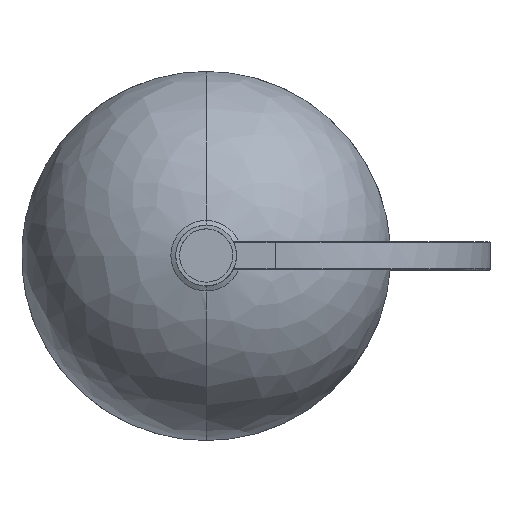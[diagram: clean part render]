
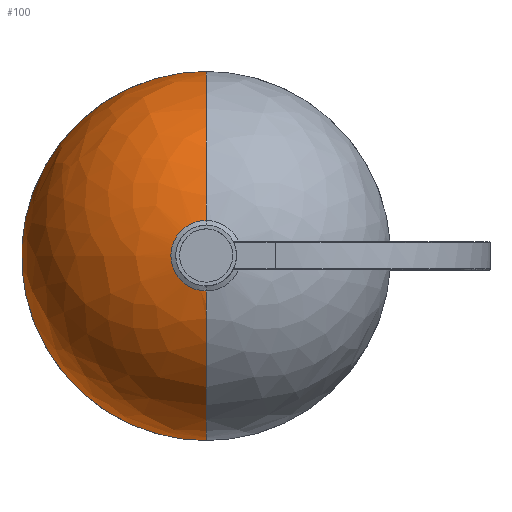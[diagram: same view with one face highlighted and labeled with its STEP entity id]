
A CAD part, top view. The second image highlights one B-rep face of the part: STEP entity #100.
In plain terms, the highlighted free-form (B-spline) face has degree [2, 2] with [9, 9] control points.
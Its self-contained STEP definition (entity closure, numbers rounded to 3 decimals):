
#100=ADVANCED_FACE('',(#325),#3201,.T.);
#325=FACE_OUTER_BOUND('',#553,.T.);
#553=EDGE_LOOP('',(#857,#858,#859,#860));
#857=ORIENTED_EDGE('',*,*,#1826,.T.);
#858=ORIENTED_EDGE('',*,*,#1828,.T.);
#859=ORIENTED_EDGE('',*,*,#1847,.T.);
#860=ORIENTED_EDGE('',*,*,#1829,.T.);
#1826=EDGE_CURVE('',#2836,#2835,#2329,.T.);
#1828=EDGE_CURVE('',#2835,#2837,#2331,.T.);
#1829=EDGE_CURVE('',#2838,#2836,#2332,.T.);
#1847=EDGE_CURVE('',#2837,#2838,#2348,.T.);
#2329=(
BOUNDED_CURVE()
B_SPLINE_CURVE(2,(#5375,#5376,#5377,#5378,#5379),.UNSPECIFIED.,.F.,.F.)
B_SPLINE_CURVE_WITH_KNOTS((3,2,3),(0.,59.313,118.625),
 .UNSPECIFIED.)
CURVE()
GEOMETRIC_REPRESENTATION_ITEM()
RATIONAL_B_SPLINE_CURVE((1.,0.707,1.,0.707,1.))
REPRESENTATION_ITEM('')
);
#2331=(
BOUNDED_CURVE()
B_SPLINE_CURVE(2,(#5385,#5386,#5387),.UNSPECIFIED.,.F.,.F.)
B_SPLINE_CURVE_WITH_KNOTS((3,3),(0.,262.32),.UNSPECIFIED.)
CURVE()
GEOMETRIC_REPRESENTATION_ITEM()
RATIONAL_B_SPLINE_CURVE((1.,0.784,1.))
REPRESENTATION_ITEM('')
);
#2332=(
BOUNDED_CURVE()
B_SPLINE_CURVE(2,(#5388,#5389,#5390),.UNSPECIFIED.,.F.,.F.)
B_SPLINE_CURVE_WITH_KNOTS((3,3),(-262.32,0.),.UNSPECIFIED.)
CURVE()
GEOMETRIC_REPRESENTATION_ITEM()
RATIONAL_B_SPLINE_CURVE((1.,0.784,1.))
REPRESENTATION_ITEM('')
);
#2348=(
BOUNDED_CURVE()
B_SPLINE_CURVE(2,(#5458,#5459,#5460,#5461,#5462),.UNSPECIFIED.,.F.,.F.)
B_SPLINE_CURVE_WITH_KNOTS((3,2,3),(-620.312,-310.156,
0.),.UNSPECIFIED.)
CURVE()
GEOMETRIC_REPRESENTATION_ITEM()
RATIONAL_B_SPLINE_CURVE((1.,0.707,1.,0.707,1.))
REPRESENTATION_ITEM('')
);
#2835=VERTEX_POINT('',#5222);
#2836=VERTEX_POINT('',#5223);
#2837=VERTEX_POINT('',#5224);
#2838=VERTEX_POINT('',#5225);
#3201=(
BOUNDED_SURFACE()
B_SPLINE_SURFACE(2,2,((#4640,#4641,#4642,#4643,#4644,#4645,#4646,#4647,
#4648),(#4649,#4650,#4651,#4652,#4653,#4654,#4655,#4656,#4657),(#4658,#4659,
#4660,#4661,#4662,#4663,#4664,#4665,#4666),(#4667,#4668,#4669,#4670,#4671,
#4672,#4673,#4674,#4675),(#4676,#4677,#4678,#4679,#4680,#4681,#4682,#4683,
#4684),(#4685,#4686,#4687,#4688,#4689,#4690,#4691,#4692,#4693),(#4694,#4695,
#4696,#4697,#4698,#4699,#4700,#4701,#4702),(#4703,#4704,#4705,#4706,#4707,
#4708,#4709,#4710,#4711),(#4712,#4713,#4714,#4715,#4716,#4717,#4718,#4719,
#4720)),.UNSPECIFIED.,.T.,.F.,.F.)
B_SPLINE_SURFACE_WITH_KNOTS((3,2,2,2,3),(3,2,2,2,3),(0.,310.5,
620.999,931.499,1241.998),(0.,154.773,
309.546,464.319,619.093),.UNSPECIFIED.)
GEOMETRIC_REPRESENTATION_ITEM()
RATIONAL_B_SPLINE_SURFACE(((1.,0.923,1.,0.923,1.,
0.923,1.,0.923,1.),(0.707,0.653,
0.707,0.653,0.707,0.653,0.707,
0.653,0.707),(1.,0.923,1.,0.923,
1.,0.923,1.,0.923,1.),(0.707,0.653,
0.707,0.653,0.707,0.653,0.707,
0.653,0.707),(1.,0.923,1.,0.923,
1.,0.923,1.,0.923,1.),(0.707,0.653,
0.707,0.653,0.707,0.653,0.707,
0.653,0.707),(1.,0.923,1.,0.923,
1.,0.923,1.,0.923,1.),(0.707,0.653,
0.707,0.653,0.707,0.653,0.707,
0.653,0.707),(1.,0.923,1.,0.923,
1.,0.923,1.,0.923,1.)))
REPRESENTATION_ITEM('')
SURFACE()
);
#4640=CARTESIAN_POINT('',(116.2,0.,517.993));
#4641=CARTESIAN_POINT('',(197.873,0.,518.689));
#4642=CARTESIAN_POINT('',(255.871,0.,461.182));
#4643=CARTESIAN_POINT('',(313.87,0.,403.675));
#4644=CARTESIAN_POINT('',(313.87,0.,322.));
#4645=CARTESIAN_POINT('',(313.87,0.,240.325));
#4646=CARTESIAN_POINT('',(255.871,0.,182.818));
#4647=CARTESIAN_POINT('',(197.873,0.,125.311));
#4648=CARTESIAN_POINT('',(116.2,0.,126.007));
#4649=CARTESIAN_POINT('',(116.2,0.,517.993));
#4650=CARTESIAN_POINT('',(197.873,-81.673,518.689));
#4651=CARTESIAN_POINT('',(255.871,-139.671,461.182));
#4652=CARTESIAN_POINT('',(313.87,-197.67,403.675));
#4653=CARTESIAN_POINT('',(313.87,-197.67,322.));
#4654=CARTESIAN_POINT('',(313.87,-197.67,240.325));
#4655=CARTESIAN_POINT('',(255.871,-139.671,182.818));
#4656=CARTESIAN_POINT('',(197.873,-81.673,125.311));
#4657=CARTESIAN_POINT('',(116.2,0.,126.007));
#4658=CARTESIAN_POINT('',(116.2,0.,517.993));
#4659=CARTESIAN_POINT('',(116.2,-81.673,518.689));
#4660=CARTESIAN_POINT('',(116.2,-139.671,461.182));
#4661=CARTESIAN_POINT('',(116.2,-197.67,403.675));
#4662=CARTESIAN_POINT('',(116.2,-197.67,322.));
#4663=CARTESIAN_POINT('',(116.2,-197.67,240.325));
#4664=CARTESIAN_POINT('',(116.2,-139.671,182.818));
#4665=CARTESIAN_POINT('',(116.2,-81.673,125.311));
#4666=CARTESIAN_POINT('',(116.2,0.,126.007));
#4667=CARTESIAN_POINT('',(116.2,0.,517.993));
#4668=CARTESIAN_POINT('',(34.527,-81.673,518.689));
#4669=CARTESIAN_POINT('',(-23.471,-139.671,461.182));
#4670=CARTESIAN_POINT('',(-81.47,-197.67,403.675));
#4671=CARTESIAN_POINT('',(-81.47,-197.67,322.));
#4672=CARTESIAN_POINT('',(-81.47,-197.67,240.325));
#4673=CARTESIAN_POINT('',(-23.471,-139.671,182.818));
#4674=CARTESIAN_POINT('',(34.527,-81.673,125.311));
#4675=CARTESIAN_POINT('',(116.2,0.,126.007));
#4676=CARTESIAN_POINT('',(116.2,0.,517.993));
#4677=CARTESIAN_POINT('',(34.527,0.,518.689));
#4678=CARTESIAN_POINT('',(-23.471,0.,461.182));
#4679=CARTESIAN_POINT('',(-81.47,0.,403.675));
#4680=CARTESIAN_POINT('',(-81.47,0.,322.));
#4681=CARTESIAN_POINT('',(-81.47,0.,240.325));
#4682=CARTESIAN_POINT('',(-23.471,0.,182.818));
#4683=CARTESIAN_POINT('',(34.527,0.,125.311));
#4684=CARTESIAN_POINT('',(116.2,0.,126.007));
#4685=CARTESIAN_POINT('',(116.2,0.,517.993));
#4686=CARTESIAN_POINT('',(34.527,81.673,518.689));
#4687=CARTESIAN_POINT('',(-23.471,139.671,461.182));
#4688=CARTESIAN_POINT('',(-81.47,197.67,403.675));
#4689=CARTESIAN_POINT('',(-81.47,197.67,322.));
#4690=CARTESIAN_POINT('',(-81.47,197.67,240.325));
#4691=CARTESIAN_POINT('',(-23.471,139.671,182.818));
#4692=CARTESIAN_POINT('',(34.527,81.673,125.311));
#4693=CARTESIAN_POINT('',(116.2,0.,126.007));
#4694=CARTESIAN_POINT('',(116.2,0.,517.993));
#4695=CARTESIAN_POINT('',(116.2,81.673,518.689));
#4696=CARTESIAN_POINT('',(116.2,139.671,461.182));
#4697=CARTESIAN_POINT('',(116.2,197.67,403.675));
#4698=CARTESIAN_POINT('',(116.2,197.67,322.));
#4699=CARTESIAN_POINT('',(116.2,197.67,240.325));
#4700=CARTESIAN_POINT('',(116.2,139.671,182.818));
#4701=CARTESIAN_POINT('',(116.2,81.673,125.311));
#4702=CARTESIAN_POINT('',(116.2,0.,126.007));
#4703=CARTESIAN_POINT('',(116.2,0.,517.993));
#4704=CARTESIAN_POINT('',(197.873,81.673,518.689));
#4705=CARTESIAN_POINT('',(255.871,139.671,461.182));
#4706=CARTESIAN_POINT('',(313.87,197.67,403.675));
#4707=CARTESIAN_POINT('',(313.87,197.67,322.));
#4708=CARTESIAN_POINT('',(313.87,197.67,240.325));
#4709=CARTESIAN_POINT('',(255.871,139.671,182.818));
#4710=CARTESIAN_POINT('',(197.873,81.673,125.311));
#4711=CARTESIAN_POINT('',(116.2,0.,126.007));
#4712=CARTESIAN_POINT('',(116.2,0.,517.993));
#4713=CARTESIAN_POINT('',(197.873,0.,518.689));
#4714=CARTESIAN_POINT('',(255.871,0.,461.182));
#4715=CARTESIAN_POINT('',(313.87,0.,403.675));
#4716=CARTESIAN_POINT('',(313.87,0.,322.));
#4717=CARTESIAN_POINT('',(313.87,0.,240.325));
#4718=CARTESIAN_POINT('',(255.871,0.,182.818));
#4719=CARTESIAN_POINT('',(197.873,0.,125.311));
#4720=CARTESIAN_POINT('',(116.2,0.,126.007));
#5222=CARTESIAN_POINT('',(116.2,37.76,514.649));
#5223=CARTESIAN_POINT('',(116.2,-37.76,514.649));
#5224=CARTESIAN_POINT('',(116.2,197.451,331.257));
#5225=CARTESIAN_POINT('',(116.2,-197.451,331.257));
#5375=CARTESIAN_POINT('',(116.2,-37.76,514.649));
#5376=CARTESIAN_POINT('',(78.44,-37.76,514.649));
#5377=CARTESIAN_POINT('',(78.44,0.,514.649));
#5378=CARTESIAN_POINT('',(78.44,37.76,514.649));
#5379=CARTESIAN_POINT('',(116.2,37.76,514.649));
#5385=CARTESIAN_POINT('',(116.2,37.76,514.649));
#5386=CARTESIAN_POINT('',(116.2,190.13,486.105));
#5387=CARTESIAN_POINT('',(116.2,197.451,331.257));
#5388=CARTESIAN_POINT('',(116.2,-197.451,331.257));
#5389=CARTESIAN_POINT('',(116.2,-190.13,486.105));
#5390=CARTESIAN_POINT('',(116.2,-37.76,514.649));
#5458=CARTESIAN_POINT('',(116.2,197.451,331.257));
#5459=CARTESIAN_POINT('',(-81.251,197.451,331.257));
#5460=CARTESIAN_POINT('',(-81.251,0.,331.257));
#5461=CARTESIAN_POINT('',(-81.251,-197.451,331.257));
#5462=CARTESIAN_POINT('',(116.2,-197.451,331.257));
